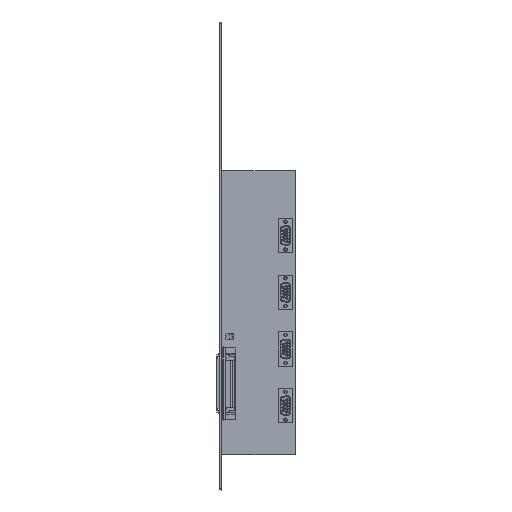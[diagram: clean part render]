
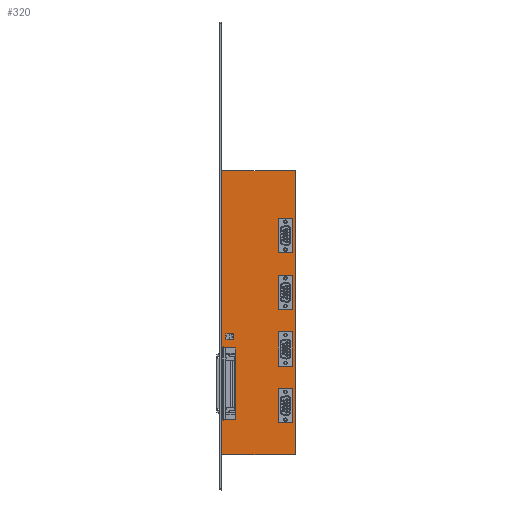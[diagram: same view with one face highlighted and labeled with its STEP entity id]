
A CAD part, top view. The second image highlights one B-rep face of the part: STEP entity #320.
In plain terms, the highlighted planar face has unit normal (0, 0, 1).
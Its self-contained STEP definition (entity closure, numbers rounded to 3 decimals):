
#63 = VERTEX_POINT('',#64);
#64 = CARTESIAN_POINT('',(0.,0.,0.));
#70 = EDGE_CURVE('',#63,#71,#73,.T.);
#71 = VERTEX_POINT('',#72);
#72 = CARTESIAN_POINT('',(0.,30.48,0.));
#73 = LINE('',#74,#75);
#74 = CARTESIAN_POINT('',(0.,0.,0.));
#75 = VECTOR('',#76,1.);
#76 = DIRECTION('',(0.,1.,0.));
#101 = EDGE_CURVE('',#71,#102,#104,.T.);
#102 = VERTEX_POINT('',#103);
#103 = CARTESIAN_POINT('',(1.27,30.48,0.));
#104 = LINE('',#105,#106);
#105 = CARTESIAN_POINT('',(0.,30.48,0.));
#106 = VECTOR('',#107,1.);
#107 = DIRECTION('',(1.,0.,0.));
#132 = EDGE_CURVE('',#102,#133,#135,.T.);
#133 = VERTEX_POINT('',#134);
#134 = CARTESIAN_POINT('',(1.27,96.52,0.));
#135 = LINE('',#136,#137);
#136 = CARTESIAN_POINT('',(1.27,30.48,0.));
#137 = VECTOR('',#138,1.);
#138 = DIRECTION('',(0.,1.,0.));
#163 = EDGE_CURVE('',#133,#164,#166,.T.);
#164 = VERTEX_POINT('',#165);
#165 = CARTESIAN_POINT('',(0.,96.52,0.));
#166 = LINE('',#167,#168);
#167 = CARTESIAN_POINT('',(1.27,96.52,0.));
#168 = VECTOR('',#169,1.);
#169 = DIRECTION('',(-1.,0.,0.));
#194 = EDGE_CURVE('',#164,#195,#197,.T.);
#195 = VERTEX_POINT('',#196);
#196 = CARTESIAN_POINT('',(0.,254.,0.));
#197 = LINE('',#198,#199);
#198 = CARTESIAN_POINT('',(0.,96.52,0.));
#199 = VECTOR('',#200,1.);
#200 = DIRECTION('',(0.,1.,0.));
#225 = EDGE_CURVE('',#195,#226,#228,.T.);
#226 = VERTEX_POINT('',#227);
#227 = CARTESIAN_POINT('',(66.04,254.,0.));
#228 = LINE('',#229,#230);
#229 = CARTESIAN_POINT('',(0.,254.,0.));
#230 = VECTOR('',#231,1.);
#231 = DIRECTION('',(1.,0.,0.));
#256 = EDGE_CURVE('',#226,#257,#259,.T.);
#257 = VERTEX_POINT('',#258);
#258 = CARTESIAN_POINT('',(66.04,0.,0.));
#259 = LINE('',#260,#261);
#260 = CARTESIAN_POINT('',(66.04,254.,0.));
#261 = VECTOR('',#262,1.);
#262 = DIRECTION('',(0.,-1.,0.));
#287 = EDGE_CURVE('',#257,#63,#288,.T.);
#288 = LINE('',#289,#290);
#289 = CARTESIAN_POINT('',(66.04,0.,0.));
#290 = VECTOR('',#291,1.);
#291 = DIRECTION('',(-1.,0.,0.));
#320 = ADVANCED_FACE('',(#321),#331,.T.);
#321 = FACE_BOUND('',#322,.F.);
#322 = EDGE_LOOP('',(#323,#324,#325,#326,#327,#328,#329,#330));
#323 = ORIENTED_EDGE('',*,*,#70,.T.);
#324 = ORIENTED_EDGE('',*,*,#101,.T.);
#325 = ORIENTED_EDGE('',*,*,#132,.T.);
#326 = ORIENTED_EDGE('',*,*,#163,.T.);
#327 = ORIENTED_EDGE('',*,*,#194,.T.);
#328 = ORIENTED_EDGE('',*,*,#225,.T.);
#329 = ORIENTED_EDGE('',*,*,#256,.T.);
#330 = ORIENTED_EDGE('',*,*,#287,.T.);
#331 = PLANE('',#332);
#332 = AXIS2_PLACEMENT_3D('',#333,#334,#335);
#333 = CARTESIAN_POINT('',(0.,0.,0.));
#334 = DIRECTION('',(0.,0.,1.));
#335 = DIRECTION('',(1.,0.,0.));
